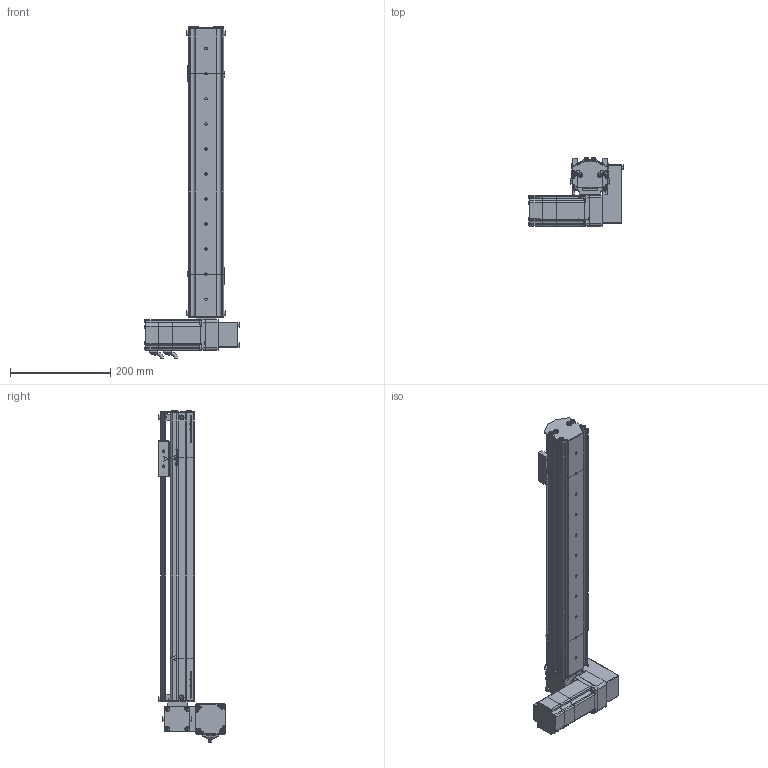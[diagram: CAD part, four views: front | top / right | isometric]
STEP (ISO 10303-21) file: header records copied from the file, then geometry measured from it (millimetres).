
FILE_DESCRIPTION (( 'STEP AP214' ), '1' );
FILE_NAME ('S07 TB LU S400.STEP', '2010-06-29T11:24:52', ( 'Conseil Régional Haute-Normandie' ), ( 'Conseil Régional Haute-Normandie' ), 'SwSTEP 2.0', 'SolidWorks 2010', '' );
FILE_SCHEMA (( 'AUTOMOTIVE_DESIGN' ));
Length unit declared in the file: millimetre
Products named in the file (41): vis M5 L16_Default; guide; Plaque racord_Default; CHariot_Default; couroie tail_Default; vis M5 L12_Default; Poulie_Default; couvercle tail TB; plaque de bout_Default; Chariot; T皻e de poulie_Default; corp tail TB_Default; S07 TB tail (78)_Default; Vis M5 L16-2_Default; Cvis M5 L30_Default; VisM3_Default; Conecteur2 60BLDC_Default; Conecteur 60BLDC_Default; Axe 60BLDC_Default; P4_Default; renvoi LU_Default; P2 90A_Default; P1_Default; GMB 60 90 310_Default; P3 90A_Default; Course C L400_Default; S07 TB LU S400; couvercle S07 course 400 ; Couroie  course 400_Default; Corp S07 course 400_Default; plaque de bout LU_Default; corp moteur TB(146)_Default; S07 LU(146)_Default; cache t皻e_Default; Poulie head_Default; cache t皻e axe_Default; couvercle moteur S07 TB; Couroie t皻e_Default; Pièce5^S07 LU(146); vis M5 L5_Default
Assembly tree (80 placements, depth 4):
  S07 TB LU S400
    Course C L400_Default
      couvercle S07 course 400 
      Corp S07 course 400_Default
      Couroie  course 400_Default
    CHariot_Default
      vis M5 L16_Default  x2
      Chariot
      guide
    S07 TB tail (78)_Default
      vis M5 L12_Default  x10
      couroie tail_Default
      plaque de bout_Default
      couvercle tail TB
      Poulie_Default
        T皻e de poulie_Default
        Poulie_Default
      corp tail TB_Default
    S07 LU(146)_Default
      cache t皻e_Default  x2
      vis M5 L5_Default  x6
      Vis M5 L16-2_Default  x8
      vis M5 L12_Default  x6
      Cvis M5 L30_Default  x2
      renvoi LU_Default
      plaque de bout LU_Default
      Poulie head_Default
      Plaque racord_Default
      cache t皻e axe_Default
      GMB 60 90 310_Default
        VisM3_Default  x12
        Conecteur2 60BLDC_Default
        P4_Default
        P3 90A_Default
        Conecteur 60BLDC_Default
        P1_Default
        Axe 60BLDC_Default
        P2 90A_Default
      couvercle moteur S07 TB
      Couroie t皻e_Default
      corp moteur TB(146)_Default
  Pièce5^S07 LU(146)
Bounding box: 190.2 x 134.7 x 662 mm (x, y, z)
Volume: 1706546.7 mm3; surface area: 683275 mm2
Topology: 102 solids, 102 shells, 3898 faces, 9732 edges, 6285 vertices
Faces by surface type: plane 2222, cylinder 746, bspline 677, cone 125, torus 124, sphere 4
Entity records: 166657 total; most frequent: CARTESIAN_POINT 75109, ORIENTED_EDGE 15376, DIRECTION 12183, EDGE_CURVE 7688, VERTEX_POINT 5073, VECTOR 5033, LINE 5033, AXIS2_PLACEMENT_3D 3575
